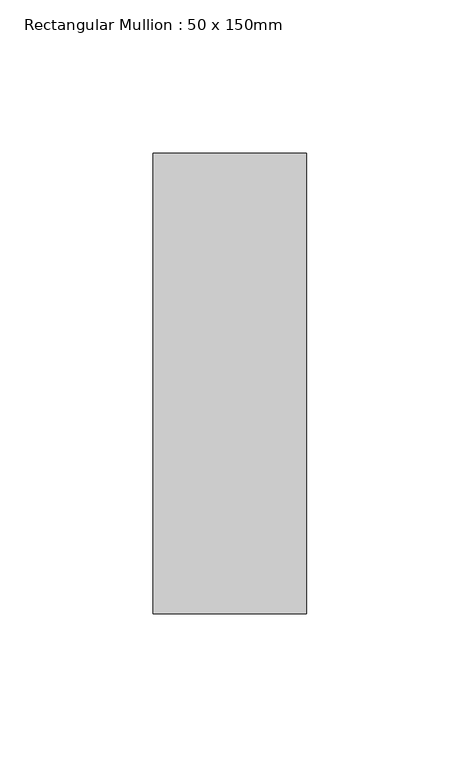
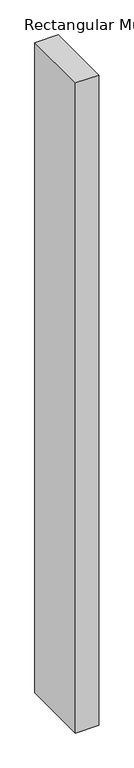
"""IFC4 building model written with IfcOpenShell, lengths in millimetres: member geometry, Rectangular Mullion : 50 x 150mm."""

import ifcopenshell
import ifcopenshell.guid

model = None  # the IFC model being written
_history = None  # IfcOwnerHistory: only IFC2X3 demands one
_inside = {}  # id of a spatial element -> (the spatial element, [elements in it])
_under = {}  # id of a project, library or spatial element -> (it, [spatial elements below it])
_declared = {}  # id of a project -> (the project, [libraries it declares])
_typed = {}  # id of a type object -> (the type object, [elements of that type])
_made_of = {}  # id of a material, layer set ... -> (it, [elements and type objects made of it])


def new_model(schema):
    """Start an empty IFC model of exactly this schema.

    Asked for "IFC4X3", IfcOpenShell would pick the latest addendum, in which some entities
    have other attributes; the version numbers below select the first issue.
    IFC2X3 requires an IfcOwnerHistory on every rooted entity: one is made here for all.
    """
    global model, _history
    if schema == "IFC4X3":
        model = ifcopenshell.file(schema_version=(4, 3, 0, 0))
    else:
        model = ifcopenshell.file(schema=schema)
    _inside.clear()
    _under.clear()
    _declared.clear()
    _typed.clear()
    _made_of.clear()
    _history = None
    if model.schema == "IFC2X3":
        org = make("IfcOrganization", Name="unknown")
        user = make(
            "IfcPersonAndOrganization",
            ThePerson=make("IfcPerson", FamilyName="unknown"),
            TheOrganization=org,
        )
        app = make(
            "IfcApplication",
            ApplicationDeveloper=org,
            Version="unknown",
            ApplicationFullName="unknown",
            ApplicationIdentifier="unknown",
        )
        _history = make(
            "IfcOwnerHistory",
            OwningUser=user,
            OwningApplication=app,
            ChangeAction="ADDED",
            CreationDate=0,
        )
    return model


def make(cls, **values):
    """One entity of the class cls with the attributes given. An attribute that is None is left unset."""
    return model.create_entity(
        cls, **{name: value for name, value in values.items() if value is not None}
    )


def rooted(cls, **values):
    """An entity with a GlobalId (a new one), such as an element, a storey or a relation."""
    return make(cls, GlobalId=ifcopenshell.guid.new(), OwnerHistory=_history, **values)


def si_unit(unit_type, name, prefix=None):
    """IfcSIUnit, for example si_unit("LENGTHUNIT", "METRE", prefix="MILLI")."""
    return make("IfcSIUnit", UnitType=unit_type, Prefix=prefix, Name=name)


def assignment(units):
    """IfcUnitAssignment: the units of a project."""
    return None if units is None else make("IfcUnitAssignment", Units=units)


def point(xyz):
    """IfcCartesianPoint."""
    return None if xyz is None else make("IfcCartesianPoint", Coordinates=xyz)


def direction(xyz):
    """IfcDirection."""
    return None if xyz is None else make("IfcDirection", DirectionRatios=xyz)


def frame(location, z_axis=None, x_axis=None):
    """IfcAxis2Placement3D, a coordinate frame: its origin and axes. An axis left out is left unset."""
    return make(
        "IfcAxis2Placement3D",
        Location=point(location),
        Axis=direction(z_axis),
        RefDirection=direction(x_axis),
    )


def origin():
    """The frame at (0, 0, 0) with its axes left unset."""
    return frame((0.0, 0.0, 0.0))


def place(relative_to, where):
    """IfcLocalPlacement: puts the frame where relative to a parent placement (None: the world)."""
    return make(
        "IfcLocalPlacement", PlacementRelTo=relative_to, RelativePlacement=where
    )


def context(
    kind, dimensions, precision=None, world=None, true_north=None, identifier=None
):
    """IfcGeometricRepresentationContext, for example the 3D "Model" context."""
    return make(
        "IfcGeometricRepresentationContext",
        ContextIdentifier=identifier,
        ContextType=kind,
        CoordinateSpaceDimension=dimensions,
        Precision=precision,
        WorldCoordinateSystem=world,
        TrueNorth=true_north,
    )


def project(units=None, contexts=None):
    """IfcProject with its units and contexts."""
    return rooted(
        "IfcProject",
        Name="project",
        RepresentationContexts=contexts,
        UnitsInContext=assignment(units),
    )


def spatial(cls, under=None, at=None, **own):
    """A site, building, storey or space (cls), placed at a placement, below another one or the project."""
    s = rooted(cls, ObjectPlacement=at, **own)
    if under is not None:
        _under.setdefault(under.id(), (under, []))[1].append(s)
    return s


def polyline(points):
    """IfcPolyline through the points."""
    return make("IfcPolyline", Points=[point(p) for p in points])


def outline(outer, holes=None, kind="AREA"):
    """IfcArbitraryClosedProfileDef: a profile drawn as a closed curve; with holes, ...WithVoids."""
    if holes is None:
        return make("IfcArbitraryClosedProfileDef", ProfileType=kind, OuterCurve=outer)
    return make(
        "IfcArbitraryProfileDefWithVoids",
        ProfileType=kind,
        OuterCurve=outer,
        InnerCurves=holes,
    )


def extrude(swept, where, along, depth):
    """IfcExtrudedAreaSolid: the profile swept, set in the frame where, extruded along a direction by depth."""
    return make(
        "IfcExtrudedAreaSolid",
        SweptArea=swept,
        Position=where,
        ExtrudedDirection=direction(along),
        Depth=depth,
    )


def shape(context_of_items, identifier, shape_type, items):
    """IfcShapeRepresentation: the items that make up one representation, for example the "Body"."""
    return make(
        "IfcShapeRepresentation",
        ContextOfItems=context_of_items,
        RepresentationIdentifier=identifier,
        RepresentationType=shape_type,
        Items=items,
    )


def source(mapping_origin, context_of_items, identifier, shape_type, items):
    """IfcRepresentationMap: a shape defined once, which mapped items show again and again."""
    return make(
        "IfcRepresentationMap",
        MappingOrigin=mapping_origin,
        MappedRepresentation=shape(context_of_items, identifier, shape_type, items),
    )


def transform(
    local_origin,
    x_axis=None,
    y_axis=None,
    z_axis=None,
    scale=None,
    scale2=None,
    scale3=None,
    uniform=True,
):
    """IfcCartesianTransformationOperator3D, or its non-uniform kind. x_axis, y_axis, z_axis: its Axis1, 2, 3."""
    if uniform:
        return make(
            "IfcCartesianTransformationOperator3D",
            Axis1=direction(x_axis),
            Axis2=direction(y_axis),
            LocalOrigin=point(local_origin),
            Scale=scale,
            Axis3=direction(z_axis),
        )
    return make(
        "IfcCartesianTransformationOperator3DnonUniform",
        Axis1=direction(x_axis),
        Axis2=direction(y_axis),
        LocalOrigin=point(local_origin),
        Scale=scale,
        Axis3=direction(z_axis),
        Scale2=scale2,
        Scale3=scale3,
    )


def mapped(mapping_source, mapping_target):
    """IfcMappedItem: shows the shape of a source again, moved by a transform."""
    return make(
        "IfcMappedItem", MappingSource=mapping_source, MappingTarget=mapping_target
    )


def made_of(thing, what):
    """Note that an element or type object is made of a material, layer set ...; save() writes the relation."""
    if what is not None:
        _made_of.setdefault(what.id(), (what, []))[1].append(thing)
    return thing


def element(
    cls,
    number,
    at=None,
    inside=None,
    cuts=None,
    type_object=None,
    material=None,
    context=None,
    identifier="Body",
    shape_type=None,
    held_by="IfcProductDefinitionShape",
    body=None,
    shapes=None,
    **own,
):
    """One element of the class cls, such as IfcWall. Its Tag is "e" and its number.

    at: its placement. inside: the storey or other place that contains it. cuts: it is an
    opening in that element (IfcRelVoidsElement). A single representation is given by context,
    identifier, shape_type and body (its items); several are given by shapes. held_by: the class
    of the entity that holds the representations. save() writes the other relations.
    """
    e = rooted(cls, Tag="e%d" % number, ObjectPlacement=at, **own)
    if body is not None:
        shapes = [shape(context, identifier, shape_type, body)]
    if shapes is not None:
        e.Representation = make(held_by, Representations=shapes)
    if inside is not None:
        _inside.setdefault(inside.id(), (inside, []))[1].append(e)
    if cuts is not None:
        rooted(
            "IfcRelVoidsElement", RelatingBuildingElement=cuts, RelatedOpeningElement=e
        )
    if type_object is not None:
        _typed.setdefault(type_object.id(), (type_object, []))[1].append(e)
    return made_of(e, material)


def aggregate(whole, parts):
    """IfcRelAggregates: a whole, such as a stair, and the parts it consists of."""
    return rooted("IfcRelAggregates", RelatingObject=whole, RelatedObjects=parts)


def save(model, path):
    """Write the relations noted so far, then the file.

    IfcRelAggregates (storeys below a building ...), IfcRelContainedInSpatialStructure (elements
    in a storey), IfcRelDefinesByType, IfcRelAssociatesMaterial and IfcRelDeclares: one each for
    every whole, place, type object, material and project.
    """
    for whole, parts in _under.values():
        aggregate(whole, parts)
    for where, things in _inside.values():
        rooted(
            "IfcRelContainedInSpatialStructure",
            RelatedElements=things,
            RelatingStructure=where,
        )
    for kind, things in _typed.values():
        rooted("IfcRelDefinesByType", RelatedObjects=things, RelatingType=kind)
    for what, things in _made_of.values():
        rooted("IfcRelAssociatesMaterial", RelatedObjects=things, RelatingMaterial=what)
    for by, libraries in _declared.values():
        rooted("IfcRelDeclares", RelatingContext=by, RelatedDefinitions=libraries)
    model.write(path)


def rectangular_mullion_50_x_150mm_1aed2a6a(model_context):
    return source(origin(), model_context, "Body", "SweptSolid", [
        extrude(outline(polyline([(0.0, 75.0), (0.0, -75.0), (-50.0, -75.0), (-50.0, 75.0), (0.0, 75.0)])), frame((0.0, 0.0, -1471.7391304), z_axis=(0.0, 0.0, 1.0), x_axis=(1.0, 0.0, 0.0)), (0.0, 0.0, 1.0), 1471.7391304),
    ])


if __name__ == "__main__":
    model = new_model("IFC4")
    model_context = context("Model", 3, world=origin())
    ifc_project = project(units=[si_unit("LENGTHUNIT", "METRE", prefix="MILLI")], contexts=[model_context])
    site = spatial("IfcSite", under=ifc_project)
    building = spatial("IfcBuilding", under=site)
    placement = place(None, origin())
    rectangular_mullion_50_x_150mm_shape = rectangular_mullion_50_x_150mm_1aed2a6a(model_context)
    element("IfcMember", 1, ObjectType="Rectangular Mullion : 50 x 150mm", at=placement, inside=building, context=model_context, shape_type="MappedRepresentation", body=[
        mapped(rectangular_mullion_50_x_150mm_shape, transform((0.0, 0.0, 0.0), x_axis=(1.0, 0.0, 0.0), y_axis=(0.0, 1.0, 0.0), z_axis=(0.0, 0.0, 1.0))),
    ])
    save(model, "model.ifc")
